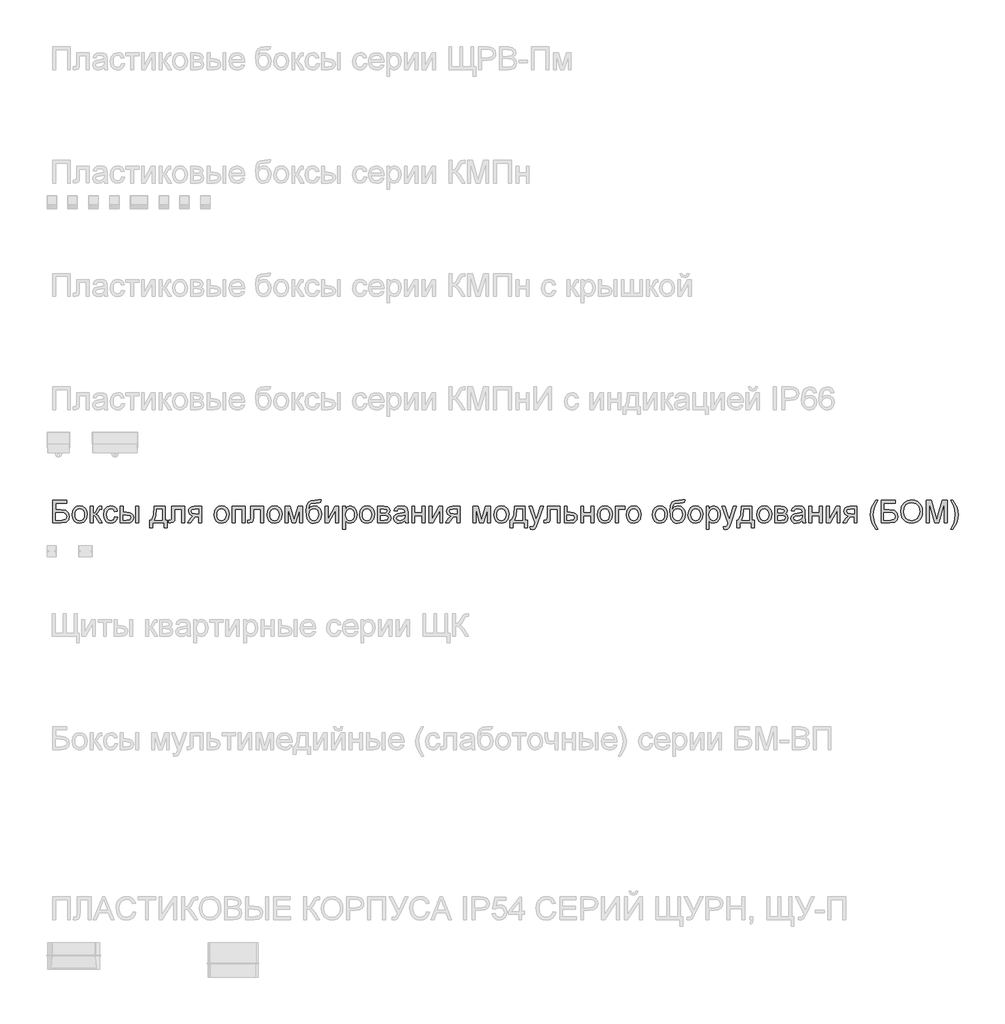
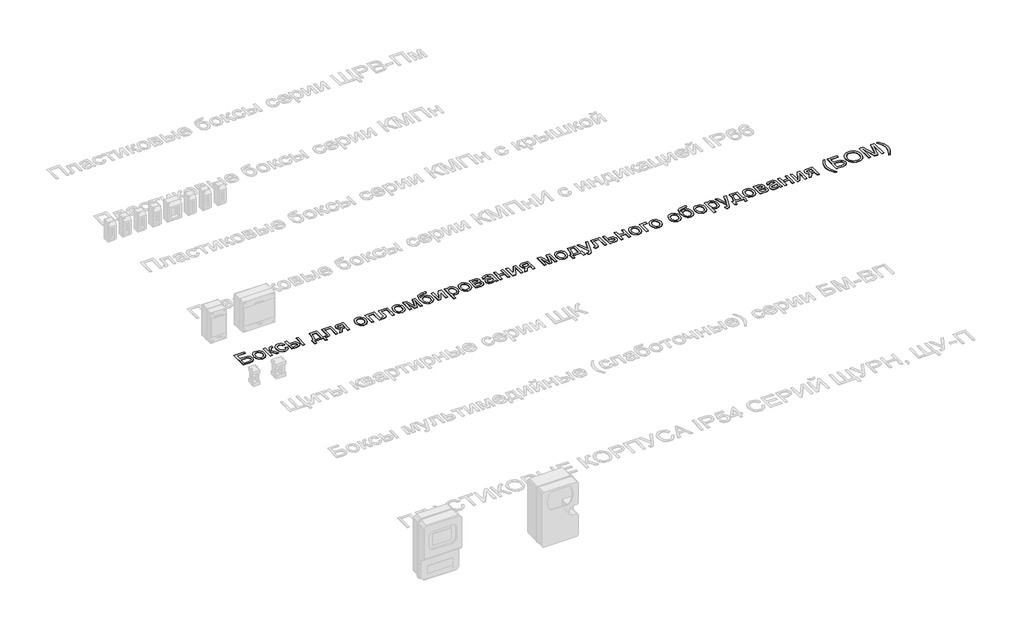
# One storey, part 19 of 25: 1 proxy.
"""IFC4 building model written with IfcOpenShell, lengths in millimetres."""

from ifc_helpers import new_model, si_unit, frame, origin, place, context, project, spatial, polyline, outline, extrude, element, save

model = new_model("IFC4")

# Units and contexts
model_context = context("Model", 3, world=origin())
ifc_project = project(units=[si_unit("LENGTHUNIT", "METRE", prefix="MILLI")], contexts=[model_context])

# Site, building, storey
site = spatial("IfcSite", under=ifc_project)
building = spatial("IfcBuilding", under=site)
storey = spatial("IfcBuildingStorey", under=building, Name="Этаж 01", Elevation=0.0)

# Proxy
placement = place(None, origin())
element("IfcBuildingElementProxy", 1, Name="Надпись на модели 1", ObjectType="Надпись на модели 1", at=placement, inside=storey, context=model_context, shape_type="SweptSolid", body=[
    extrude(outline(polyline([(-19038.1210387, 14636.6915941), (-18975.3358449, 14636.6915941), (-18975.3358449, 14624.1345554), (-19025.564, 14624.1345554), (-19025.564, 14594.3115883), (-19002.0440777, 14594.3115883), (-18981.3200587, 14591.7609398), (-18968.9837491, 14582.1224315), (-18964.348436, 14565.6413181), (-18967.6471112, 14551.3307085), (-18977.4940859, 14540.4536642), (-18999.7877348, 14536.235284), (-19038.1210387, 14536.235284), (-19038.1210387, 14636.6915941)]), holes=[polyline([(-19025.564, 14548.7923228), (-18998.6595634, 14548.7923228), (-18982.3501283, 14552.9371266), (-18978.2666381, 14558.1181313), (-18976.9054747, 14565.371538), (-18980.020209, 14575.20625), (-18988.6899613, 14580.4546998), (-19007.6113586, 14581.7545495), (-19025.564, 14581.7545495), (-19025.564, 14548.7923228)])]), frame((0.0, 0.0, 40.0), z_axis=(0.0, 0.0, 1.0), x_axis=(1.0, 0.0, 0.0)), (0.0, 0.0, 1.0), 2.0),
    extrude(outline(polyline([(-18951.7913972, 14573.1215854), (-18949.0752018, 14590.9086798), (-18940.9266156, 14603.4105363), (-18930.8589117, 14609.5357715), (-18918.804645, 14611.5775166), (-18905.6130097, 14609.0912475), (-18895.0762563, 14601.63244), (-18888.1692718, 14589.7897054), (-18885.8669437, 14574.151655), (-18889.9381711, 14551.8089551), (-18901.796234, 14539.1660772), (-18918.804645, 14534.6656541), (-18932.1556957, 14537.1427262), (-18942.6801864, 14544.5739426), (-18949.5135945, 14556.6649975), (-18951.7913972, 14573.1215854)]), holes=[polyline([(-18939.2343584, 14573.1461108), (-18937.7812245, 14561.7816229), (-18933.4218229, 14553.6851533), (-18926.8612607, 14548.838308), (-18918.804645, 14547.2226929), (-18910.7848175, 14548.8475051), (-18904.2365179, 14553.7219415), (-18899.8771163, 14561.92571), (-18898.4239824, 14573.5385183), (-18899.8863134, 14584.5719125), (-18904.2733061, 14592.5580175), (-18910.8308027, 14597.4048627), (-18918.804645, 14599.0204778), (-18926.8612607, 14597.4109941), (-18933.4218229, 14592.5825429), (-18937.7812245, 14584.5044674), (-18939.2343584, 14573.1461108)])]), frame((0.0, 0.0, 40.0), z_axis=(0.0, 0.0, 1.0), x_axis=(1.0, 0.0, 0.0)), (0.0, 0.0, 1.0), 2.0),
    extrude(outline(polyline([(-18871.740275, 14610.0078868), (-18859.1832363, 14610.0078868), (-18859.1832363, 14578.6152898), (-18850.7710013, 14580.8716327), (-18843.8793453, 14594.0172827), (-18838.1526489, 14605.3603109), (-18833.1004028, 14609.0513936), (-18823.9156157, 14610.0078868), (-18821.51212, 14610.0078868), (-18821.51212, 14597.3772716), (-18824.8966343, 14597.450848), (-18831.0280009, 14596.1264728), (-18835.344483, 14587.8613906), (-18840.4089918, 14578.9218582), (-18847.5091143, 14574.5440624), (-18839.5873887, 14569.6573633), (-18831.8128158, 14559.3627988), (-18818.3728603, 14536.235284), (-18832.6466817, 14536.235284), (-18845.8168571, 14558.8722894), (-18852.438733, 14568.449484), (-18859.1832363, 14570.7671406), (-18859.1832363, 14536.235284), (-18871.740275, 14536.235284), (-18871.740275, 14610.0078868)])), frame((0.0, 0.0, 40.0), z_axis=(0.0, 0.0, 1.0), x_axis=(1.0, 0.0, 0.0)), (0.0, 0.0, 1.0), 2.0),
    extrude(outline(polyline([(-18763.4358157, 14562.9189914), (-18750.8787769, 14561.3493615), (-18754.3797872, 14550.1810773), (-18760.9587436, 14541.7412512), (-18769.9963779, 14536.4345534), (-18780.8734222, 14534.6656541), (-18794.2306043, 14537.1335292), (-18804.6753873, 14544.5371544), (-18811.4168249, 14556.5515672), (-18813.6639707, 14572.8518052), (-18809.8257353, 14593.7107144), (-18798.1270878, 14607.1138817), (-18781.0451005, 14611.5775166), (-18770.4347706, 14610.044675), (-18761.9520249, 14605.44615), (-18755.8666436, 14598.0271964), (-18752.4484067, 14588.0330689), (-18765.0054455, 14586.4634391), (-18770.8302438, 14595.8689554), (-18780.9469986, 14599.0204778), (-18789.0618623, 14597.4692421), (-18795.5028629, 14592.8155349), (-18799.7059147, 14584.8079701), (-18801.106932, 14573.1951618), (-18799.7365715, 14561.4260036), (-18795.6254902, 14553.3908477), (-18789.3009856, 14548.7647316), (-18781.2903552, 14547.2226929), (-18769.4568177, 14551.0731911), (-18763.4358157, 14562.9189914)])), frame((0.0, 0.0, 40.0), z_axis=(0.0, 0.0, 1.0), x_axis=(1.0, 0.0, 0.0)), (0.0, 0.0, 1.0), 2.0),
    extrude(outline(polyline([(-18739.891368, 14610.0078868), (-18727.3343292, 14610.0078868), (-18727.3343292, 14583.3241794), (-18711.809709, 14583.3241794), (-18698.3912132, 14581.7514838), (-18688.4492023, 14577.0333973), (-18682.2963759, 14569.5500643), (-18680.2454338, 14559.6816298), (-18681.9652821, 14550.6961121), (-18687.1248271, 14543.1146773), (-18696.0612939, 14537.9551323), (-18709.1119077, 14536.235284), (-18739.891368, 14536.235284), (-18739.891368, 14610.0078868)]), holes=[polyline([(-18727.3343292, 14548.7923228), (-18714.4339339, 14548.7923228), (-18697.7811423, 14551.4288104), (-18692.8024726, 14559.6571044), (-18696.4935553, 14567.3826263), (-18712.7907277, 14570.7671406), (-18727.3343292, 14570.7671406), (-18727.3343292, 14548.7923228)])]), frame((0.0, 0.0, 40.0), z_axis=(0.0, 0.0, 1.0), x_axis=(1.0, 0.0, 0.0)), (0.0, 0.0, 1.0), 2.0),
    extrude(outline(polyline([(-18670.8276547, 14610.0078868), (-18658.270616, 14610.0078868), (-18658.270616, 14536.235284), (-18670.8276547, 14536.235284), (-18670.8276547, 14610.0078868)])), frame((0.0, 0.0, 40.0), z_axis=(0.0, 0.0, 1.0), x_axis=(1.0, 0.0, 0.0)), (0.0, 0.0, 1.0), 2.0),
    extrude(outline(polyline([(-18589.2069027, 14610.0078868), (-18542.1180074, 14610.0078868), (-18542.1180074, 14548.7923228), (-18532.7002283, 14548.7923228), (-18532.7002283, 14515.830096), (-18545.2572671, 14515.830096), (-18545.2572671, 14536.235284), (-18597.055052, 14536.235284), (-18597.055052, 14515.830096), (-18609.6120907, 14515.830096), (-18609.6120907, 14548.7923228), (-18601.7639415, 14548.7923228), (-18592.0641196, 14572.7414406), (-18589.2069027, 14610.0078868)]), holes=[polyline([(-18578.2194938, 14597.450848), (-18581.1625498, 14568.8418915), (-18587.6372729, 14548.7923228), (-18554.6750461, 14548.7923228), (-18554.6750461, 14597.450848), (-18578.2194938, 14597.450848)])]), frame((0.0, 0.0, 40.0), z_axis=(0.0, 0.0, 1.0), x_axis=(1.0, 0.0, 0.0)), (0.0, 0.0, 1.0), 2.0),
    extrude(outline(polyline([(-18512.2950403, 14610.0078868), (-18455.7883658, 14610.0078868), (-18455.7883658, 14536.3088604), (-18468.3454046, 14536.3088604), (-18468.3454046, 14597.450848), (-18499.7380015, 14597.450848), (-18499.7380015, 14562.2568038), (-18500.5841301, 14546.0209451), (-18505.231706, 14539.1660772), (-18516.2191149, 14536.235284), (-18526.4217089, 14536.8729461), (-18526.4217089, 14548.7923228), (-18520.8053771, 14548.7923228), (-18515.1277317, 14549.564875), (-18512.859126, 14552.0174216), (-18512.2950403, 14562.9680423), (-18512.2950403, 14610.0078868)])), frame((0.0, 0.0, 40.0), z_axis=(0.0, 0.0, 1.0), x_axis=(1.0, 0.0, 0.0)), (0.0, 0.0, 1.0), 2.0),
    extrude(outline(polyline([(-18380.4461332, 14610.0078868), (-18380.4461332, 14536.235284), (-18393.003172, 14536.235284), (-18393.003172, 14564.4886212), (-18399.8457771, 14564.4886212), (-18409.1654543, 14562.8944659), (-18417.9210458, 14552.1768371), (-18427.9274361, 14536.235284), (-18442.4465121, 14536.235284), (-18429.8404224, 14556.3952173), (-18419.1473191, 14566.843066), (-18427.7312323, 14569.4734223), (-18433.7644971, 14574.470486), (-18438.5224375, 14588.6952565), (-18436.8976254, 14597.2914325), (-18432.0231889, 14604.0972494), (-18424.0708065, 14608.5302274), (-18413.2121563, 14610.0078868), (-18380.4461332, 14610.0078868)]), holes=[polyline([(-18393.003172, 14597.450848), (-18409.5578618, 14597.450848), (-18422.9610291, 14594.5445802), (-18425.9653988, 14587.7387633), (-18421.5385521, 14579.6330967), (-18405.8545164, 14577.04566), (-18393.003172, 14577.04566), (-18393.003172, 14597.450848)])]), frame((0.0, 0.0, 40.0), z_axis=(0.0, 0.0, 1.0), x_axis=(1.0, 0.0, 0.0)), (0.0, 0.0, 1.0), 2.0),
    extrude(outline(polyline([(-18325.5090886, 14573.1215854), (-18322.7928932, 14590.9086798), (-18314.644307, 14603.4105363), (-18304.5766031, 14609.5357715), (-18292.5223364, 14611.5775166), (-18279.3307012, 14609.0912475), (-18268.7939477, 14601.63244), (-18261.8869632, 14589.7897054), (-18259.5846351, 14574.151655), (-18263.6558625, 14551.8089551), (-18275.5139255, 14539.1660772), (-18292.5223364, 14534.6656541), (-18305.8733871, 14537.1427262), (-18316.3978779, 14544.5739426), (-18323.2312859, 14556.6649975), (-18325.5090886, 14573.1215854)]), holes=[polyline([(-18312.9520498, 14573.1461108), (-18311.498916, 14561.7816229), (-18307.1395143, 14553.6851533), (-18300.5789521, 14548.838308), (-18292.5223364, 14547.2226929), (-18284.5025089, 14548.8475051), (-18277.9542094, 14553.7219415), (-18273.5948077, 14561.92571), (-18272.1416738, 14573.5385183), (-18273.6040048, 14584.5719125), (-18277.9909976, 14592.5580175), (-18284.5484941, 14597.4048627), (-18292.5223364, 14599.0204778), (-18300.5789521, 14597.4109941), (-18307.1395143, 14592.5825429), (-18311.498916, 14584.5044674), (-18312.9520498, 14573.1461108)])]), frame((0.0, 0.0, 40.0), z_axis=(0.0, 0.0, 1.0), x_axis=(1.0, 0.0, 0.0)), (0.0, 0.0, 1.0), 2.0),
    extrude(outline(polyline([(-18245.4579665, 14610.0078868), (-18188.951292, 14610.0078868), (-18188.951292, 14536.235284), (-18201.5083308, 14536.235284), (-18201.5083308, 14597.450848), (-18232.9009277, 14597.450848), (-18232.9009277, 14536.235284), (-18245.4579665, 14536.235284), (-18245.4579665, 14610.0078868)])), frame((0.0, 0.0, 40.0), z_axis=(0.0, 0.0, 1.0), x_axis=(1.0, 0.0, 0.0)), (0.0, 0.0, 1.0), 2.0),
    extrude(outline(polyline([(-18163.8372145, 14610.0078868), (-18107.33054, 14610.0078868), (-18107.33054, 14536.3088604), (-18119.8875788, 14536.3088604), (-18119.8875788, 14597.450848), (-18151.2801757, 14597.450848), (-18151.2801757, 14562.2568038), (-18152.1263043, 14546.0209451), (-18156.7738801, 14539.1660772), (-18167.7612891, 14536.235284), (-18177.9638831, 14536.8729461), (-18177.9638831, 14548.7923228), (-18172.3475513, 14548.7923228), (-18166.6699058, 14549.564875), (-18164.4013002, 14552.0174216), (-18163.8372145, 14562.9680423), (-18163.8372145, 14610.0078868)])), frame((0.0, 0.0, 40.0), z_axis=(0.0, 0.0, 1.0), x_axis=(1.0, 0.0, 0.0)), (0.0, 0.0, 1.0), 2.0),
    extrude(outline(polyline([(-18091.6342415, 14573.1215854), (-18088.9180461, 14590.9086798), (-18080.7694599, 14603.4105363), (-18070.701756, 14609.5357715), (-18058.6474893, 14611.5775166), (-18045.4558541, 14609.0912475), (-18034.9191006, 14601.63244), (-18028.0121162, 14589.7897054), (-18025.709788, 14574.151655), (-18029.7810154, 14551.8089551), (-18041.6390784, 14539.1660772), (-18058.6474893, 14534.6656541), (-18071.99854, 14537.1427262), (-18082.5230308, 14544.5739426), (-18089.3564389, 14556.6649975), (-18091.6342415, 14573.1215854)]), holes=[polyline([(-18079.0772028, 14573.1461108), (-18077.6240689, 14561.7816229), (-18073.2646672, 14553.6851533), (-18066.704105, 14548.838308), (-18058.6474893, 14547.2226929), (-18050.6276618, 14548.8475051), (-18044.0793623, 14553.7219415), (-18039.7199607, 14561.92571), (-18038.2668268, 14573.5385183), (-18039.7291577, 14584.5719125), (-18044.1161505, 14592.5580175), (-18050.6736471, 14597.4048627), (-18058.6474893, 14599.0204778), (-18066.704105, 14597.4109941), (-18073.2646672, 14592.5825429), (-18077.6240689, 14584.5044674), (-18079.0772028, 14573.1461108)])]), frame((0.0, 0.0, 40.0), z_axis=(0.0, 0.0, 1.0), x_axis=(1.0, 0.0, 0.0)), (0.0, 0.0, 1.0), 2.0),
    extrude(outline(polyline([(-18011.5831194, 14610.0078868), (-17989.9761835, 14610.0078868), (-17973.3233919, 14550.9505638), (-17955.3707505, 14610.0078868), (-17934.6712569, 14610.0078868), (-17934.6712569, 14536.235284), (-17947.2282957, 14536.235284), (-17947.2282957, 14595.6359635), (-17965.2790389, 14536.235284), (-17981.7601523, 14536.235284), (-17999.0260806, 14598.4809176), (-17999.0260806, 14536.235284), (-18011.5831194, 14536.235284), (-18011.5831194, 14610.0078868)])), frame((0.0, 0.0, 40.0), z_axis=(0.0, 0.0, 1.0), x_axis=(1.0, 0.0, 0.0)), (0.0, 0.0, 1.0), 2.0),
    extrude(outline(polyline([(-17864.0379139, 14638.261224), (-17853.0505049, 14638.261224), (-17856.2878665, 14628.4633002), (-17862.6890132, 14624.9193703), (-17878.0664806, 14624.1345554), (-17898.7782369, 14621.2405503), (-17906.724488, 14611.9699241), (-17909.4100266, 14595.5623871), (-17898.5329823, 14607.5798656), (-17884.5166783, 14611.5775166), (-17871.4507361, 14609.0360652), (-17860.8496032, 14601.4117108), (-17853.8230571, 14589.4524803), (-17851.4808751, 14573.9064003), (-17856.128451, 14552.2994644), (-17867.1526481, 14539.2641791), (-17884.5166783, 14534.6656541), (-17895.8505094, 14536.1463792), (-17904.3455178, 14540.5885543), (-17915.1980367, 14555.7452925), (-17918.9749585, 14587.9104416), (-17916.5929225, 14612.0036466), (-17909.4468148, 14626.6974666), (-17897.3588256, 14634.1930623), (-17880.1511452, 14636.6915941), (-17866.1716294, 14636.973637), (-17864.0379139, 14638.261224)]), holes=[polyline([(-17864.0379139, 14574.2988078), (-17865.3990772, 14584.179505), (-17869.4825674, 14592.0920336), (-17876.0431296, 14597.2883668), (-17884.8355093, 14599.0204778), (-17894.0019024, 14597.1902649), (-17900.8015879, 14591.6996261), (-17905.0138368, 14583.1494354), (-17906.4179197, 14572.1405667), (-17904.866684, 14561.4689232), (-17900.2129767, 14553.6361024), (-17893.2845325, 14548.8260453), (-17884.9090857, 14547.2226929), (-17876.4907194, 14549.0774313), (-17869.8259239, 14554.6416465), (-17865.4849164, 14563.2654136), (-17864.0379139, 14574.2988078)])]), frame((0.0, 0.0, 40.0), z_axis=(0.0, 0.0, 1.0), x_axis=(1.0, 0.0, 0.0)), (0.0, 0.0, 1.0), 2.0),
    extrude(outline(polyline([(-17835.7845766, 14610.0078868), (-17823.2275379, 14610.0078868), (-17823.2275379, 14553.746467), (-17792.3745012, 14610.0078868), (-17776.1386425, 14610.0078868), (-17776.1386425, 14536.235284), (-17788.6956812, 14536.235284), (-17788.6956812, 14592.1533473), (-17819.3525142, 14536.235284), (-17835.7845766, 14536.235284), (-17835.7845766, 14610.0078868)])), frame((0.0, 0.0, 40.0), z_axis=(0.0, 0.0, 1.0), x_axis=(1.0, 0.0, 0.0)), (0.0, 0.0, 1.0), 2.0),
    extrude(outline(polyline([(-17757.3030843, 14507.9819468), (-17757.3030843, 14610.0078868), (-17744.7460456, 14610.0078868), (-17744.7460456, 14597.6961027), (-17736.0640305, 14608.1071631), (-17724.3408576, 14611.5775166), (-17708.4238299, 14606.7214743), (-17698.0250322, 14593.036264), (-17694.5178905, 14573.6856711), (-17698.4787533, 14553.3417968), (-17709.981197, 14539.4849083), (-17725.8614365, 14534.6656541), (-17736.7875317, 14537.890753), (-17744.7460456, 14546.0454705), (-17744.7460456, 14507.9819468), (-17757.3030843, 14507.9819468)]), holes=[polyline([(-17744.7460456, 14572.5329742), (-17743.3879479, 14561.2757851), (-17739.3136548, 14553.4031104), (-17733.3018498, 14548.7677973), (-17726.1312166, 14547.2226929), (-17718.8440874, 14548.8229796), (-17712.6789983, 14553.6238396), (-17708.4759465, 14561.7846886), (-17707.0749292, 14573.4649419), (-17708.442224, 14584.6608173), (-17712.5441082, 14592.6438566), (-17718.5467161, 14597.4263225), (-17725.6161818, 14599.0204778), (-17732.7132386, 14597.325155), (-17738.9457728, 14592.2391864), (-17743.2959774, 14583.9219876), (-17744.7460456, 14572.5329742)])]), frame((0.0, 0.0, 40.0), z_axis=(0.0, 0.0, 1.0), x_axis=(1.0, 0.0, 0.0)), (0.0, 0.0, 1.0), 2.0),
    extrude(outline(polyline([(-17683.5304816, 14573.1215854), (-17680.8142862, 14590.9086798), (-17672.6657, 14603.4105363), (-17662.597996, 14609.5357715), (-17650.5437293, 14611.5775166), (-17637.3520941, 14609.0912475), (-17626.8153406, 14601.63244), (-17619.9083562, 14589.7897054), (-17617.606028, 14574.151655), (-17621.6772554, 14551.8089551), (-17633.5353184, 14539.1660772), (-17650.5437293, 14534.6656541), (-17663.8947801, 14537.1427262), (-17674.4192708, 14544.5739426), (-17681.2526789, 14556.6649975), (-17683.5304816, 14573.1215854)]), holes=[polyline([(-17670.9734428, 14573.1461108), (-17669.5203089, 14561.7816229), (-17665.1609073, 14553.6851533), (-17658.600345, 14548.838308), (-17650.5437293, 14547.2226929), (-17642.5239018, 14548.8475051), (-17635.9756023, 14553.7219415), (-17631.6162007, 14561.92571), (-17630.1630668, 14573.5385183), (-17631.6253977, 14584.5719125), (-17636.0123905, 14592.5580175), (-17642.5698871, 14597.4048627), (-17650.5437293, 14599.0204778), (-17658.600345, 14597.4109941), (-17665.1609073, 14592.5825429), (-17669.5203089, 14584.5044674), (-17670.9734428, 14573.1461108)])]), frame((0.0, 0.0, 40.0), z_axis=(0.0, 0.0, 1.0), x_axis=(1.0, 0.0, 0.0)), (0.0, 0.0, 1.0), 2.0),
    extrude(outline(polyline([(-17603.4793594, 14610.0078868), (-17575.8146334, 14610.0078868), (-17560.6456324, 14608.3278923), (-17552.1107701, 14602.1720003), (-17548.5423148, 14591.4421087), (-17550.7005558, 14582.7233055), (-17557.1998044, 14576.5060997), (-17548.763044, 14569.7002828), (-17545.4030551, 14557.8667453), (-17547.5306393, 14548.2956821), (-17552.5890167, 14541.5573102), (-17560.5965815, 14537.5657905), (-17571.5717277, 14536.235284), (-17603.4793594, 14536.235284), (-17603.4793594, 14610.0078868)]), holes=[polyline([(-17590.9223206, 14548.7923228), (-17575.5203278, 14548.7923228), (-17561.859643, 14551.0609284), (-17557.9600939, 14558.8968149), (-17560.1060722, 14564.9423424), (-17565.6978785, 14568.4617468), (-17576.7466011, 14569.1975108), (-17590.9223206, 14569.1975108), (-17590.9223206, 14548.7923228)]), polyline([(-17590.9223206, 14581.7545495), (-17578.5124347, 14581.7545495), (-17568.2730525, 14582.3922117), (-17563.2943828, 14584.9428602), (-17561.0993536, 14589.5536478), (-17564.9498518, 14595.7095399), (-17578.1200272, 14597.450848), (-17590.9223206, 14597.450848), (-17590.9223206, 14581.7545495)])]), frame((0.0, 0.0, 40.0), z_axis=(0.0, 0.0, 1.0), x_axis=(1.0, 0.0, 0.0)), (0.0, 0.0, 1.0), 2.0),
    extrude(outline(polyline([(-17482.6178613, 14545.6530631), (-17494.7947553, 14537.1427262), (-17508.2469736, 14534.6656541), (-17518.7408075, 14536.1555762), (-17526.4816578, 14540.6253425), (-17531.2549267, 14547.4127653), (-17532.8460163, 14555.8556571), (-17530.4425206, 14565.7884709), (-17524.127213, 14572.998958), (-17515.3348334, 14577.1192364), (-17504.4700518, 14579.0076973), (-17482.6914377, 14583.3241794), (-17482.6178613, 14586.1200825), (-17486.075952, 14595.3907088), (-17499.957366, 14599.0204778), (-17512.6615575, 14596.6047194), (-17518.7193477, 14588.0330689), (-17531.2763865, 14589.6026988), (-17525.8439957, 14601.8654319), (-17514.9056377, 14609.0513936), (-17498.3386852, 14611.5775166), (-17483.1206333, 14609.3456992), (-17474.5244574, 14603.7416301), (-17470.6739591, 14595.2190306), (-17470.0608225, 14584.2316216), (-17470.0608225, 14568.6088996), (-17469.4231604, 14546.7934973), (-17466.9215628, 14536.235284), (-17479.4786016, 14536.235284), (-17482.6178613, 14545.6530631)]), holes=[polyline([(-17482.6178613, 14570.7671406), (-17502.8758965, 14566.9166424), (-17513.6793644, 14564.8810287), (-17518.5721949, 14561.5700907), (-17520.2889776, 14556.7385739), (-17516.5488439, 14549.9450197), (-17505.5736978, 14547.2226929), (-17492.8695062, 14550.2270625), (-17484.6780004, 14557.4988633), (-17482.6914377, 14567.210948), (-17482.6178613, 14570.7671406)])]), frame((0.0, 0.0, 40.0), z_axis=(0.0, 0.0, 1.0), x_axis=(1.0, 0.0, 0.0)), (0.0, 0.0, 1.0), 2.0),
    extrude(outline(polyline([(-17452.7948942, 14610.0078868), (-17440.2378554, 14610.0078868), (-17440.2378554, 14581.7545495), (-17407.2756286, 14581.7545495), (-17407.2756286, 14610.0078868), (-17394.7185899, 14610.0078868), (-17394.7185899, 14536.235284), (-17407.2756286, 14536.235284), (-17407.2756286, 14569.1975108), (-17440.2378554, 14569.1975108), (-17440.2378554, 14536.235284), (-17452.7948942, 14536.235284), (-17452.7948942, 14610.0078868)])), frame((0.0, 0.0, 40.0), z_axis=(0.0, 0.0, 1.0), x_axis=(1.0, 0.0, 0.0)), (0.0, 0.0, 1.0), 2.0),
    extrude(outline(polyline([(-17375.8830317, 14610.0078868), (-17363.325993, 14610.0078868), (-17363.325993, 14553.746467), (-17332.4729563, 14610.0078868), (-17316.2370976, 14610.0078868), (-17316.2370976, 14536.235284), (-17328.7941363, 14536.235284), (-17328.7941363, 14592.1533473), (-17359.4509693, 14536.235284), (-17375.8830317, 14536.235284), (-17375.8830317, 14610.0078868)])), frame((0.0, 0.0, 40.0), z_axis=(0.0, 0.0, 1.0), x_axis=(1.0, 0.0, 0.0)), (0.0, 0.0, 1.0), 2.0),
    extrude(outline(polyline([(-17240.894865, 14610.0078868), (-17240.894865, 14536.235284), (-17253.4519037, 14536.235284), (-17253.4519037, 14564.4886212), (-17260.2945088, 14564.4886212), (-17269.614186, 14562.8944659), (-17278.3697775, 14552.1768371), (-17288.3761678, 14536.235284), (-17302.8952439, 14536.235284), (-17290.2891542, 14556.3952173), (-17279.5960508, 14566.843066), (-17288.1799641, 14569.4734223), (-17294.2132288, 14574.470486), (-17298.9711693, 14588.6952565), (-17297.3463571, 14597.2914325), (-17292.4719207, 14604.0972494), (-17284.5195382, 14608.5302274), (-17273.660888, 14610.0078868), (-17240.894865, 14610.0078868)]), holes=[polyline([(-17253.4519037, 14597.450848), (-17270.0065935, 14597.450848), (-17283.4097609, 14594.5445802), (-17286.4141305, 14587.7387633), (-17281.9872838, 14579.6330967), (-17266.3032481, 14577.04566), (-17253.4519037, 14577.04566), (-17253.4519037, 14597.450848)])]), frame((0.0, 0.0, 40.0), z_axis=(0.0, 0.0, 1.0), x_axis=(1.0, 0.0, 0.0)), (0.0, 0.0, 1.0), 2.0),
    extrude(outline(polyline([(-17182.8185607, 14610.0078868), (-17161.2116248, 14610.0078868), (-17144.5588332, 14550.9505638), (-17126.6061918, 14610.0078868), (-17105.9066982, 14610.0078868), (-17105.9066982, 14536.235284), (-17118.463737, 14536.235284), (-17118.463737, 14595.6359635), (-17136.5144802, 14536.235284), (-17152.9955936, 14536.235284), (-17170.2615219, 14598.4809176), (-17170.2615219, 14536.235284), (-17182.8185607, 14536.235284), (-17182.8185607, 14610.0078868)])), frame((0.0, 0.0, 40.0), z_axis=(0.0, 0.0, 1.0), x_axis=(1.0, 0.0, 0.0)), (0.0, 0.0, 1.0), 2.0),
    extrude(outline(polyline([(-17090.2103997, 14573.1215854), (-17087.4942043, 14590.9086798), (-17079.3456181, 14603.4105363), (-17069.2779142, 14609.5357715), (-17057.2236475, 14611.5775166), (-17044.0320123, 14609.0912475), (-17033.4952588, 14601.63244), (-17026.5882744, 14589.7897054), (-17024.2859462, 14574.151655), (-17028.3571736, 14551.8089551), (-17040.2152366, 14539.1660772), (-17057.2236475, 14534.6656541), (-17070.5746982, 14537.1427262), (-17081.099189, 14544.5739426), (-17087.932597, 14556.6649975), (-17090.2103997, 14573.1215854)]), holes=[polyline([(-17077.653361, 14573.1461108), (-17076.2002271, 14561.7816229), (-17071.8408254, 14553.6851533), (-17065.2802632, 14548.838308), (-17057.2236475, 14547.2226929), (-17049.20382, 14548.8475051), (-17042.6555205, 14553.7219415), (-17038.2961188, 14561.92571), (-17036.842985, 14573.5385183), (-17038.3053159, 14584.5719125), (-17042.6923087, 14592.5580175), (-17049.2498053, 14597.4048627), (-17057.2236475, 14599.0204778), (-17065.2802632, 14597.4109941), (-17071.8408254, 14592.5825429), (-17076.2002271, 14584.5044674), (-17077.653361, 14573.1461108)])]), frame((0.0, 0.0, 40.0), z_axis=(0.0, 0.0, 1.0), x_axis=(1.0, 0.0, 0.0)), (0.0, 0.0, 1.0), 2.0),
    extrude(outline(polyline([(-16999.1718687, 14610.0078868), (-16952.0829733, 14610.0078868), (-16952.0829733, 14548.7923228), (-16942.6651942, 14548.7923228), (-16942.6651942, 14515.830096), (-16955.222233, 14515.830096), (-16955.222233, 14536.235284), (-17007.0200179, 14536.235284), (-17007.0200179, 14515.830096), (-17019.5770567, 14515.830096), (-17019.5770567, 14548.7923228), (-17011.7289074, 14548.7923228), (-17002.0290855, 14572.7414406), (-16999.1718687, 14610.0078868)]), holes=[polyline([(-16988.1844597, 14597.450848), (-16991.1275157, 14568.8418915), (-16997.6022388, 14548.7923228), (-16964.640012, 14548.7923228), (-16964.640012, 14597.450848), (-16988.1844597, 14597.450848)])]), frame((0.0, 0.0, 40.0), z_axis=(0.0, 0.0, 1.0), x_axis=(1.0, 0.0, 0.0)), (0.0, 0.0, 1.0), 2.0),
    extrude(outline(polyline([(-16928.5385256, 14507.9819468), (-16930.1081554, 14520.0730017), (-16923.7315342, 14518.9693557), (-16917.7718459, 14520.3550445), (-16914.1175514, 14524.2178055), (-16910.6839861, 14533.4639063), (-16909.7029674, 14536.5050641), (-16936.3866748, 14610.0078868), (-16923.142923, 14610.0078868), (-16908.9917289, 14569.050358), (-16904.0621102, 14552.6673464), (-16899.1324914, 14567.1373716), (-16884.5888899, 14610.0078868), (-16871.4432399, 14610.0078868), (-16897.1214032, 14534.4694504), (-16903.79233, 14518.0864389), (-16911.0763935, 14509.2327455), (-16920.8620546, 14506.4123169), (-16928.5385256, 14507.9819468)])), frame((0.0, 0.0, 40.0), z_axis=(0.0, 0.0, 1.0), x_axis=(1.0, 0.0, 0.0)), (0.0, 0.0, 1.0), 2.0),
    extrude(outline(polyline([(-16854.7659228, 14610.0078868), (-16798.2592484, 14610.0078868), (-16798.2592484, 14536.3088604), (-16810.8162871, 14536.3088604), (-16810.8162871, 14597.450848), (-16842.2088841, 14597.450848), (-16842.2088841, 14562.2568038), (-16843.0550126, 14546.0209451), (-16847.7025885, 14539.1660772), (-16858.6899974, 14536.235284), (-16868.8925914, 14536.8729461), (-16868.8925914, 14548.7923228), (-16863.2762596, 14548.7923228), (-16857.5986142, 14549.564875), (-16855.3300085, 14552.0174216), (-16854.7659228, 14562.9680423), (-16854.7659228, 14610.0078868)])), frame((0.0, 0.0, 40.0), z_axis=(0.0, 0.0, 1.0), x_axis=(1.0, 0.0, 0.0)), (0.0, 0.0, 1.0), 2.0),
    extrude(outline(polyline([(-16779.4236902, 14610.0078868), (-16766.8666514, 14610.0078868), (-16766.8666514, 14583.3241794), (-16752.3966263, 14583.3241794), (-16739.8518503, 14581.7514838), (-16730.5689612, 14577.0333973), (-16724.8300021, 14569.5500643), (-16722.9170157, 14559.6816298), (-16724.5448936, 14550.6961121), (-16729.4285271, 14543.1146773), (-16737.8928786, 14537.9551323), (-16750.2629107, 14536.235284), (-16779.4236902, 14536.235284), (-16779.4236902, 14610.0078868)]), holes=[polyline([(-16766.8666514, 14548.7923228), (-16755.1434785, 14548.7923228), (-16739.9990031, 14551.4288104), (-16735.4740545, 14559.6571044), (-16738.8217807, 14567.3826263), (-16753.6474251, 14570.7671406), (-16766.8666514, 14570.7671406), (-16766.8666514, 14548.7923228)])]), frame((0.0, 0.0, 40.0), z_axis=(0.0, 0.0, 1.0), x_axis=(1.0, 0.0, 0.0)), (0.0, 0.0, 1.0), 2.0),
    extrude(outline(polyline([(-16707.2207173, 14610.0078868), (-16694.6636785, 14610.0078868), (-16694.6636785, 14581.7545495), (-16661.7014518, 14581.7545495), (-16661.7014518, 14610.0078868), (-16649.144413, 14610.0078868), (-16649.144413, 14536.235284), (-16661.7014518, 14536.235284), (-16661.7014518, 14569.1975108), (-16694.6636785, 14569.1975108), (-16694.6636785, 14536.235284), (-16707.2207173, 14536.235284), (-16707.2207173, 14610.0078868)])), frame((0.0, 0.0, 40.0), z_axis=(0.0, 0.0, 1.0), x_axis=(1.0, 0.0, 0.0)), (0.0, 0.0, 1.0), 2.0),
    extrude(outline(polyline([(-16633.4481145, 14573.1215854), (-16630.7319191, 14590.9086798), (-16622.5833329, 14603.4105363), (-16612.515629, 14609.5357715), (-16600.4613623, 14611.5775166), (-16587.2697271, 14609.0912475), (-16576.7329736, 14601.63244), (-16569.8259891, 14589.7897054), (-16567.523661, 14574.151655), (-16571.5948884, 14551.8089551), (-16583.4529514, 14539.1660772), (-16600.4613623, 14534.6656541), (-16613.812413, 14537.1427262), (-16624.3369038, 14544.5739426), (-16631.1703118, 14556.6649975), (-16633.4481145, 14573.1215854)]), holes=[polyline([(-16620.8910758, 14573.1461108), (-16619.4379419, 14561.7816229), (-16615.0785402, 14553.6851533), (-16608.517978, 14548.838308), (-16600.4613623, 14547.2226929), (-16592.4415348, 14548.8475051), (-16585.8932353, 14553.7219415), (-16581.5338336, 14561.92571), (-16580.0806998, 14573.5385183), (-16581.5430307, 14584.5719125), (-16585.9300235, 14592.5580175), (-16592.48752, 14597.4048627), (-16600.4613623, 14599.0204778), (-16608.517978, 14597.4109941), (-16615.0785402, 14592.5825429), (-16619.4379419, 14584.5044674), (-16620.8910758, 14573.1461108)])]), frame((0.0, 0.0, 40.0), z_axis=(0.0, 0.0, 1.0), x_axis=(1.0, 0.0, 0.0)), (0.0, 0.0, 1.0), 2.0),
    extrude(outline(polyline([(-16553.3969924, 14610.0078868), (-16512.5866164, 14610.0078868), (-16512.5866164, 14597.450848), (-16540.8399536, 14597.450848), (-16540.8399536, 14536.235284), (-16553.3969924, 14536.235284), (-16553.3969924, 14610.0078868)])), frame((0.0, 0.0, 40.0), z_axis=(0.0, 0.0, 1.0), x_axis=(1.0, 0.0, 0.0)), (0.0, 0.0, 1.0), 2.0),
    extrude(outline(polyline([(-16506.308097, 14573.1215854), (-16503.5919016, 14590.9086798), (-16495.4433154, 14603.4105363), (-16485.3756115, 14609.5357715), (-16473.3213448, 14611.5775166), (-16460.1297095, 14609.0912475), (-16449.5929561, 14601.63244), (-16442.6859716, 14589.7897054), (-16440.3836435, 14574.151655), (-16444.4548709, 14551.8089551), (-16456.3129338, 14539.1660772), (-16473.3213448, 14534.6656541), (-16486.6723955, 14537.1427262), (-16497.1968862, 14544.5739426), (-16504.0302943, 14556.6649975), (-16506.308097, 14573.1215854)]), holes=[polyline([(-16493.7510582, 14573.1461108), (-16492.2979243, 14561.7816229), (-16487.9385227, 14553.6851533), (-16481.3779604, 14548.838308), (-16473.3213448, 14547.2226929), (-16465.3015173, 14548.8475051), (-16458.7532177, 14553.7219415), (-16454.3938161, 14561.92571), (-16452.9406822, 14573.5385183), (-16454.4030132, 14584.5719125), (-16458.7900059, 14592.5580175), (-16465.3475025, 14597.4048627), (-16473.3213448, 14599.0204778), (-16481.3779604, 14597.4109941), (-16487.9385227, 14592.5825429), (-16492.2979243, 14584.5044674), (-16493.7510582, 14573.1461108)])]), frame((0.0, 0.0, 40.0), z_axis=(0.0, 0.0, 1.0), x_axis=(1.0, 0.0, 0.0)), (0.0, 0.0, 1.0), 2.0),
    extrude(outline(polyline([(-16390.1554884, 14573.1215854), (-16387.439293, 14590.9086798), (-16379.2907068, 14603.4105363), (-16369.2230029, 14609.5357715), (-16357.1687361, 14611.5775166), (-16343.9771009, 14609.0912475), (-16333.4403475, 14601.63244), (-16326.533363, 14589.7897054), (-16324.2310348, 14574.151655), (-16328.3022623, 14551.8089551), (-16340.1603252, 14539.1660772), (-16357.1687361, 14534.6656541), (-16370.5197869, 14537.1427262), (-16381.0442776, 14544.5739426), (-16387.8776857, 14556.6649975), (-16390.1554884, 14573.1215854)]), holes=[polyline([(-16377.5984496, 14573.1461108), (-16376.1453157, 14561.7816229), (-16371.7859141, 14553.6851533), (-16365.2253518, 14548.838308), (-16357.1687361, 14547.2226929), (-16349.1489086, 14548.8475051), (-16342.6006091, 14553.7219415), (-16338.2412075, 14561.92571), (-16336.7880736, 14573.5385183), (-16338.2504045, 14584.5719125), (-16342.6373973, 14592.5580175), (-16349.1948939, 14597.4048627), (-16357.1687361, 14599.0204778), (-16365.2253518, 14597.4109941), (-16371.7859141, 14592.5825429), (-16376.1453157, 14584.5044674), (-16377.5984496, 14573.1461108)])]), frame((0.0, 0.0, 40.0), z_axis=(0.0, 0.0, 1.0), x_axis=(1.0, 0.0, 0.0)), (0.0, 0.0, 1.0), 2.0),
    extrude(outline(polyline([(-16258.3065813, 14638.261224), (-16247.3191724, 14638.261224), (-16250.5565339, 14628.4633002), (-16256.9576807, 14624.9193703), (-16272.3351481, 14624.1345554), (-16293.0469044, 14621.2405503), (-16300.9931555, 14611.9699241), (-16303.678694, 14595.5623871), (-16292.8016497, 14607.5798656), (-16278.7853457, 14611.5775166), (-16265.7194035, 14609.0360652), (-16255.1182707, 14601.4117108), (-16248.0917246, 14589.4524803), (-16245.7495425, 14573.9064003), (-16250.3971184, 14552.2994644), (-16261.4213155, 14539.2641791), (-16278.7853457, 14534.6656541), (-16290.1191768, 14536.1463792), (-16298.6141852, 14540.5885543), (-16309.4667041, 14555.7452925), (-16313.2436259, 14587.9104416), (-16310.86159, 14612.0036466), (-16303.7154822, 14626.6974666), (-16291.627493, 14634.1930623), (-16274.4198127, 14636.6915941), (-16260.4402969, 14636.973637), (-16258.3065813, 14638.261224)]), holes=[polyline([(-16258.3065813, 14574.2988078), (-16259.6677447, 14584.179505), (-16263.7512348, 14592.0920336), (-16270.3117971, 14597.2883668), (-16279.1041768, 14599.0204778), (-16288.2705698, 14597.1902649), (-16295.0702554, 14591.6996261), (-16299.2825042, 14583.1494354), (-16300.6865872, 14572.1405667), (-16299.1353514, 14561.4689232), (-16294.4816442, 14553.6361024), (-16287.5531999, 14548.8260453), (-16279.1777532, 14547.2226929), (-16270.7593868, 14549.0774313), (-16264.0945914, 14554.6416465), (-16259.7535838, 14563.2654136), (-16258.3065813, 14574.2988078)])]), frame((0.0, 0.0, 40.0), z_axis=(0.0, 0.0, 1.0), x_axis=(1.0, 0.0, 0.0)), (0.0, 0.0, 1.0), 2.0),
    extrude(outline(polyline([(-16233.1925038, 14573.1215854), (-16230.4763084, 14590.9086798), (-16222.3277222, 14603.4105363), (-16212.2600182, 14609.5357715), (-16200.2057515, 14611.5775166), (-16187.0141163, 14609.0912475), (-16176.4773628, 14601.63244), (-16169.5703784, 14589.7897054), (-16167.2680502, 14574.151655), (-16171.3392776, 14551.8089551), (-16183.1973406, 14539.1660772), (-16200.2057515, 14534.6656541), (-16213.5568023, 14537.1427262), (-16224.081293, 14544.5739426), (-16230.9147011, 14556.6649975), (-16233.1925038, 14573.1215854)]), holes=[polyline([(-16220.635465, 14573.1461108), (-16219.1823311, 14561.7816229), (-16214.8229295, 14553.6851533), (-16208.2623672, 14548.838308), (-16200.2057515, 14547.2226929), (-16192.185924, 14548.8475051), (-16185.6376245, 14553.7219415), (-16181.2782229, 14561.92571), (-16179.825089, 14573.5385183), (-16181.2874199, 14584.5719125), (-16185.6744127, 14592.5580175), (-16192.2319093, 14597.4048627), (-16200.2057515, 14599.0204778), (-16208.2623672, 14597.4109941), (-16214.8229295, 14592.5825429), (-16219.1823311, 14584.5044674), (-16220.635465, 14573.1461108)])]), frame((0.0, 0.0, 40.0), z_axis=(0.0, 0.0, 1.0), x_axis=(1.0, 0.0, 0.0)), (0.0, 0.0, 1.0), 2.0),
    extrude(outline(polyline([(-16153.1413816, 14507.9819468), (-16153.1413816, 14610.0078868), (-16140.5843428, 14610.0078868), (-16140.5843428, 14597.6961027), (-16131.9023278, 14608.1071631), (-16120.1791549, 14611.5775166), (-16104.2621272, 14606.7214743), (-16093.8633295, 14593.036264), (-16090.3561878, 14573.6856711), (-16094.3170506, 14553.3417968), (-16105.8194943, 14539.4849083), (-16121.6997338, 14534.6656541), (-16132.625829, 14537.890753), (-16140.5843428, 14546.0454705), (-16140.5843428, 14507.9819468), (-16153.1413816, 14507.9819468)]), holes=[polyline([(-16140.5843428, 14572.5329742), (-16139.2262452, 14561.2757851), (-16135.1519521, 14553.4031104), (-16129.1401471, 14548.7677973), (-16121.9695139, 14547.2226929), (-16114.6823847, 14548.8229796), (-16108.5172956, 14553.6238396), (-16104.3142438, 14561.7846886), (-16102.9132265, 14573.4649419), (-16104.2805213, 14584.6608173), (-16108.3824055, 14592.6438566), (-16114.3850134, 14597.4263225), (-16121.4544791, 14599.0204778), (-16128.5515359, 14597.325155), (-16134.7840701, 14592.2391864), (-16139.1342747, 14583.9219876), (-16140.5843428, 14572.5329742)])]), frame((0.0, 0.0, 40.0), z_axis=(0.0, 0.0, 1.0), x_axis=(1.0, 0.0, 0.0)), (0.0, 0.0, 1.0), 2.0),
    extrude(outline(polyline([(-16076.2295192, 14507.9819468), (-16077.799149, 14520.0730017), (-16071.4225278, 14518.9693557), (-16065.4628394, 14520.3550445), (-16061.8085449, 14524.2178055), (-16058.3749797, 14533.4639063), (-16057.393961, 14536.5050641), (-16084.0776684, 14610.0078868), (-16070.8339166, 14610.0078868), (-16056.6827225, 14569.050358), (-16051.7531037, 14552.6673464), (-16046.823485, 14567.1373716), (-16032.2798835, 14610.0078868), (-16019.1342335, 14610.0078868), (-16044.8123968, 14534.4694504), (-16051.4833236, 14518.0864389), (-16058.7673871, 14509.2327455), (-16068.5530482, 14506.4123169), (-16076.2295192, 14507.9819468)])), frame((0.0, 0.0, 40.0), z_axis=(0.0, 0.0, 1.0), x_axis=(1.0, 0.0, 0.0)), (0.0, 0.0, 1.0), 2.0),
    extrude(outline(polyline([(-15997.7480269, 14610.0078868), (-15950.6591315, 14610.0078868), (-15950.6591315, 14548.7923228), (-15941.2413524, 14548.7923228), (-15941.2413524, 14515.830096), (-15953.7983912, 14515.830096), (-15953.7983912, 14536.235284), (-16005.5961761, 14536.235284), (-16005.5961761, 14515.830096), (-16018.1532149, 14515.830096), (-16018.1532149, 14548.7923228), (-16010.3050656, 14548.7923228), (-16000.6052437, 14572.7414406), (-15997.7480269, 14610.0078868)]), holes=[polyline([(-15986.7606179, 14597.450848), (-15989.7036739, 14568.8418915), (-15996.178397, 14548.7923228), (-15963.2161702, 14548.7923228), (-15963.2161702, 14597.450848), (-15986.7606179, 14597.450848)])]), frame((0.0, 0.0, 40.0), z_axis=(0.0, 0.0, 1.0), x_axis=(1.0, 0.0, 0.0)), (0.0, 0.0, 1.0), 2.0),
    extrude(outline(polyline([(-15930.2539435, 14573.1215854), (-15927.5377481, 14590.9086798), (-15919.3891619, 14603.4105363), (-15909.3214579, 14609.5357715), (-15897.2671912, 14611.5775166), (-15884.075556, 14609.0912475), (-15873.5388026, 14601.63244), (-15866.6318181, 14589.7897054), (-15864.3294899, 14574.151655), (-15868.4007174, 14551.8089551), (-15880.2587803, 14539.1660772), (-15897.2671912, 14534.6656541), (-15910.618242, 14537.1427262), (-15921.1427327, 14544.5739426), (-15927.9761408, 14556.6649975), (-15930.2539435, 14573.1215854)]), holes=[polyline([(-15917.6969047, 14573.1461108), (-15916.2437708, 14561.7816229), (-15911.8843692, 14553.6851533), (-15905.3238069, 14548.838308), (-15897.2671912, 14547.2226929), (-15889.2473637, 14548.8475051), (-15882.6990642, 14553.7219415), (-15878.3396626, 14561.92571), (-15876.8865287, 14573.5385183), (-15878.3488596, 14584.5719125), (-15882.7358524, 14592.5580175), (-15889.293349, 14597.4048627), (-15897.2671912, 14599.0204778), (-15905.3238069, 14597.4109941), (-15911.8843692, 14592.5825429), (-15916.2437708, 14584.5044674), (-15917.6969047, 14573.1461108)])]), frame((0.0, 0.0, 40.0), z_axis=(0.0, 0.0, 1.0), x_axis=(1.0, 0.0, 0.0)), (0.0, 0.0, 1.0), 2.0),
    extrude(outline(polyline([(-15850.2028213, 14610.0078868), (-15822.5380953, 14610.0078868), (-15807.3690944, 14608.3278923), (-15798.8342321, 14602.1720003), (-15795.2657767, 14591.4421087), (-15797.4240177, 14582.7233055), (-15803.9232663, 14576.5060997), (-15795.4865059, 14569.7002828), (-15792.126517, 14557.8667453), (-15794.2541012, 14548.2956821), (-15799.3124787, 14541.5573102), (-15807.3200434, 14537.5657905), (-15818.2951896, 14536.235284), (-15850.2028213, 14536.235284), (-15850.2028213, 14610.0078868)]), holes=[polyline([(-15837.6457826, 14581.7545495), (-15825.2358966, 14581.7545495), (-15814.9965144, 14582.3922117), (-15810.0178447, 14584.9428602), (-15807.8228155, 14589.5536478), (-15811.6733137, 14595.7095399), (-15824.8434891, 14597.450848), (-15837.6457826, 14597.450848), (-15837.6457826, 14581.7545495)]), polyline([(-15837.6457826, 14548.7923228), (-15822.2437897, 14548.7923228), (-15808.5831049, 14551.0609284), (-15804.6835558, 14558.8968149), (-15806.8295341, 14564.9423424), (-15812.4213404, 14568.4617468), (-15823.470063, 14569.1975108), (-15837.6457826, 14569.1975108), (-15837.6457826, 14548.7923228)])]), frame((0.0, 0.0, 40.0), z_axis=(0.0, 0.0, 1.0), x_axis=(1.0, 0.0, 0.0)), (0.0, 0.0, 1.0), 2.0),
    extrude(outline(polyline([(-15729.3413232, 14545.6530631), (-15741.5182172, 14537.1427262), (-15754.9704355, 14534.6656541), (-15765.4642694, 14536.1555762), (-15773.2051197, 14540.6253425), (-15777.9783886, 14547.4127653), (-15779.5694782, 14555.8556571), (-15777.1659825, 14565.7884709), (-15770.850675, 14572.998958), (-15762.0582953, 14577.1192364), (-15751.1935137, 14579.0076973), (-15729.4148996, 14583.3241794), (-15729.3413232, 14586.1200825), (-15732.7994139, 14595.3907088), (-15746.6808279, 14599.0204778), (-15759.3850194, 14596.6047194), (-15765.4428096, 14588.0330689), (-15777.9998484, 14589.6026988), (-15772.5674576, 14601.8654319), (-15761.6290996, 14609.0513936), (-15745.0621471, 14611.5775166), (-15729.8440952, 14609.3456992), (-15721.2479193, 14603.7416301), (-15717.3974211, 14595.2190306), (-15716.7842844, 14584.2316216), (-15716.7842844, 14568.6088996), (-15716.1466223, 14546.7934973), (-15713.6450247, 14536.235284), (-15726.2020635, 14536.235284), (-15729.3413232, 14545.6530631)]), holes=[polyline([(-15729.3413232, 14570.7671406), (-15749.5993584, 14566.9166424), (-15760.4028263, 14564.8810287), (-15765.2956568, 14561.5700907), (-15767.0124395, 14556.7385739), (-15763.2723059, 14549.9450197), (-15752.2971597, 14547.2226929), (-15739.5929681, 14550.2270625), (-15731.4014623, 14557.4988633), (-15729.4148996, 14567.210948), (-15729.3413232, 14570.7671406)])]), frame((0.0, 0.0, 40.0), z_axis=(0.0, 0.0, 1.0), x_axis=(1.0, 0.0, 0.0)), (0.0, 0.0, 1.0), 2.0),
    extrude(outline(polyline([(-15699.5183561, 14610.0078868), (-15686.9613173, 14610.0078868), (-15686.9613173, 14581.7545495), (-15653.9990906, 14581.7545495), (-15653.9990906, 14610.0078868), (-15641.4420518, 14610.0078868), (-15641.4420518, 14536.235284), (-15653.9990906, 14536.235284), (-15653.9990906, 14569.1975108), (-15686.9613173, 14569.1975108), (-15686.9613173, 14536.235284), (-15699.5183561, 14536.235284), (-15699.5183561, 14610.0078868)])), frame((0.0, 0.0, 40.0), z_axis=(0.0, 0.0, 1.0), x_axis=(1.0, 0.0, 0.0)), (0.0, 0.0, 1.0), 2.0),
    extrude(outline(polyline([(-15622.6064936, 14610.0078868), (-15610.0494549, 14610.0078868), (-15610.0494549, 14553.746467), (-15579.1964182, 14610.0078868), (-15562.9605595, 14610.0078868), (-15562.9605595, 14536.235284), (-15575.5175983, 14536.235284), (-15575.5175983, 14592.1533473), (-15606.1744312, 14536.235284), (-15622.6064936, 14536.235284), (-15622.6064936, 14610.0078868)])), frame((0.0, 0.0, 40.0), z_axis=(0.0, 0.0, 1.0), x_axis=(1.0, 0.0, 0.0)), (0.0, 0.0, 1.0), 2.0),
    extrude(outline(polyline([(-15487.6183269, 14610.0078868), (-15487.6183269, 14536.235284), (-15500.1753656, 14536.235284), (-15500.1753656, 14564.4886212), (-15507.0179708, 14564.4886212), (-15516.337648, 14562.8944659), (-15525.0932395, 14552.1768371), (-15535.0996297, 14536.235284), (-15549.6187058, 14536.235284), (-15537.0126161, 14556.3952173), (-15526.3195128, 14566.843066), (-15534.903426, 14569.4734223), (-15540.9366907, 14574.470486), (-15545.6946312, 14588.6952565), (-15544.069819, 14597.2914325), (-15539.1953826, 14604.0972494), (-15531.2430001, 14608.5302274), (-15520.3843499, 14610.0078868), (-15487.6183269, 14610.0078868)]), holes=[polyline([(-15500.1753656, 14597.450848), (-15516.7300554, 14597.450848), (-15530.1332228, 14594.5445802), (-15533.1375924, 14587.7387633), (-15528.7107457, 14579.6330967), (-15513.02671, 14577.04566), (-15500.1753656, 14577.04566), (-15500.1753656, 14597.450848)])]), frame((0.0, 0.0, 40.0), z_axis=(0.0, 0.0, 1.0), x_axis=(1.0, 0.0, 0.0)), (0.0, 0.0, 1.0), 2.0),
    extrude(outline(polyline([(-15404.427945, 14507.9819468), (-15422.2579591, 14537.4370318), (-15427.7210067, 14554.617121), (-15429.5420226, 14572.4103469), (-15424.097369, 14602.9445525), (-15404.427945, 14636.6915941), (-15395.010166, 14636.6915941), (-15406.7578643, 14616.8014409), (-15413.8211986, 14597.5244244), (-15416.9849838, 14572.3367705), (-15411.4912793, 14540.1470959), (-15395.010166, 14507.9819468), (-15404.427945, 14507.9819468)])), frame((0.0, 0.0, 40.0), z_axis=(0.0, 0.0, 1.0), x_axis=(1.0, 0.0, 0.0)), (0.0, 0.0, 1.0), 2.0),
    extrude(outline(polyline([(-15380.8834973, 14636.6915941), (-15318.0983035, 14636.6915941), (-15318.0983035, 14624.1345554), (-15368.3264586, 14624.1345554), (-15368.3264586, 14594.3115883), (-15344.8065363, 14594.3115883), (-15324.0825173, 14591.7609398), (-15311.7462077, 14582.1224315), (-15307.1108946, 14565.6413181), (-15310.4095698, 14551.3307085), (-15320.2565445, 14540.4536642), (-15342.5501934, 14536.235284), (-15380.8834973, 14536.235284), (-15380.8834973, 14636.6915941)]), holes=[polyline([(-15368.3264586, 14548.7923228), (-15341.422022, 14548.7923228), (-15325.1125869, 14552.9371266), (-15321.0290967, 14558.1181313), (-15319.6679333, 14565.371538), (-15322.7826676, 14575.20625), (-15331.4524199, 14580.4546998), (-15350.3738172, 14581.7545495), (-15368.3264586, 14581.7545495), (-15368.3264586, 14548.7923228)])]), frame((0.0, 0.0, 40.0), z_axis=(0.0, 0.0, 1.0), x_axis=(1.0, 0.0, 0.0)), (0.0, 0.0, 1.0), 2.0),
    extrude(outline(polyline([(-15294.5538558, 14585.1390639), (-15291.2061297, 14607.353005), (-15281.1629512, 14624.1590808), (-15265.8284034, 14634.7356882), (-15246.6065691, 14638.261224), (-15233.4302623, 14636.605755), (-15221.6151189, 14631.6393481), (-15211.8049324, 14623.7114911), (-15204.6434962, 14613.1716719), (-15200.2657004, 14600.528794), (-15198.8064352, 14586.2917608), (-15200.3423425, 14571.8646552), (-15204.9500645, 14559.0439677), (-15212.3751495, 14548.4857544), (-15222.3631456, 14540.8460717), (-15234.0771215, 14536.2107585), (-15246.6801455, 14534.6656541), (-15260.0587874, 14536.3732397), (-15271.9413758, 14541.4959965), (-15281.7270369, 14549.5710063), (-15288.8148967, 14560.1353509), (-15294.5538558, 14585.1390639)]), holes=[polyline([(-15281.996817, 14585.0164366), (-15279.4860224, 14569.301744), (-15271.9536386, 14557.327185), (-15260.6320702, 14549.7488159), (-15246.7537219, 14547.2226929), (-15232.6730385, 14549.7733414), (-15221.333076, 14557.4252869), (-15213.8558745, 14569.7677279), (-15211.363474, 14586.3898627), (-15215.6309051, 14607.1138817), (-15228.1021047, 14620.8358802), (-15246.5329927, 14625.7041852), (-15260.0403933, 14623.3589375), (-15271.5244429, 14616.3231943), (-15279.3787235, 14603.8060095), (-15281.996817, 14585.0164366)])]), frame((0.0, 0.0, 40.0), z_axis=(0.0, 0.0, 1.0), x_axis=(1.0, 0.0, 0.0)), (0.0, 0.0, 1.0), 2.0),
    extrude(outline(polyline([(-15181.5405069, 14536.235284), (-15181.5405069, 14636.6915941), (-15159.933571, 14636.6915941), (-15139.3812302, 14565.8865728), (-15135.2364264, 14551.0977166), (-15130.7482661, 14567.1128461), (-15110.5392818, 14636.6915941), (-15088.932346, 14636.6915941), (-15088.932346, 14536.235284), (-15101.4893847, 14536.235284), (-15101.4893847, 14624.1345554), (-15126.7260896, 14536.235284), (-15143.7467633, 14536.235284), (-15168.9834681, 14624.1345554), (-15168.9834681, 14536.235284), (-15181.5405069, 14536.235284)])), frame((0.0, 0.0, 40.0), z_axis=(0.0, 0.0, 1.0), x_axis=(1.0, 0.0, 0.0)), (0.0, 0.0, 1.0), 2.0),
    extrude(outline(polyline([(-15065.3878983, 14507.9819468), (-15074.8056774, 14507.9819468), (-15058.324564, 14540.1470959), (-15052.8308595, 14572.3367705), (-15055.9946447, 14597.3036952), (-15062.9844026, 14616.6052372), (-15074.8056774, 14636.6915941), (-15065.3878983, 14636.6915941), (-15045.7184743, 14602.9445525), (-15040.2738207, 14572.4103469), (-15042.1040337, 14554.617121), (-15047.5946724, 14537.4370318), (-15065.3878983, 14507.9819468)])), frame((0.0, 0.0, 40.0), z_axis=(0.0, 0.0, 1.0), x_axis=(1.0, 0.0, 0.0)), (0.0, 0.0, 1.0), 2.0),
])

save(model, "model.ifc")
